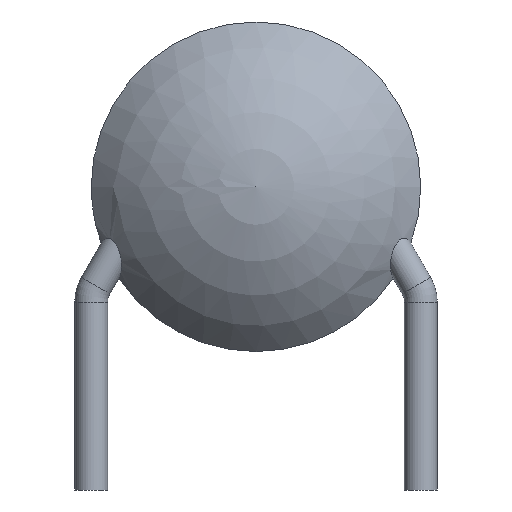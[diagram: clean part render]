
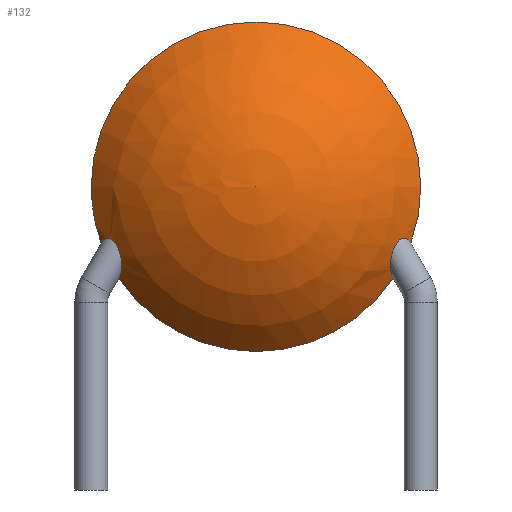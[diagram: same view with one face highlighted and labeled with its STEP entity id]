
A CAD part, front view. The second image highlights one B-rep face of the part: STEP entity #132.
In plain terms, the highlighted spherical face has radius 3.125 mm.
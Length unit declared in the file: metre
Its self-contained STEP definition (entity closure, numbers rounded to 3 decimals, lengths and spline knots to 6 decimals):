
#13=SPHERICAL_SURFACE('',#152,0.003125);
#29=B_SPLINE_CURVE_WITH_KNOTS('',3,(#209,#210,#211,#212,#213,#214,#215),
 .UNSPECIFIED.,.F.,.F.,(4,1,1,1,4),(0.,0.00025,
0.0005,0.000751,0.001001),
 .UNSPECIFIED.);
#32=B_SPLINE_CURVE_WITH_KNOTS('',3,(#238,#239,#240,#241,#242,#243,#244),
 .UNSPECIFIED.,.F.,.F.,(4,1,1,1,4),(0.,0.000249,
0.000499,0.000748,0.000997),
 .UNSPECIFIED.);
#51=ORIENTED_EDGE('',*,*,#69,.T.);
#52=ORIENTED_EDGE('',*,*,#71,.T.);
#53=ORIENTED_EDGE('',*,*,#70,.T.);
#54=ORIENTED_EDGE('',*,*,#66,.T.);
#66=EDGE_CURVE('',#78,#79,#29,.T.);
#69=EDGE_CURVE('',#79,#81,#88,.T.);
#70=EDGE_CURVE('',#80,#78,#89,.T.);
#71=EDGE_CURVE('',#81,#80,#32,.T.);
#78=VERTEX_POINT('',#216);
#79=VERTEX_POINT('',#217);
#80=VERTEX_POINT('',#233);
#81=VERTEX_POINT('',#234);
#88=CIRCLE('',#150,0.0025);
#89=CIRCLE('',#151,0.0025);
#101=EDGE_LOOP('',(#51,#52,#53,#54));
#117=FACE_BOUND('',#101,.T.);
#132=ADVANCED_FACE('',(#117),#13,.T.);
#150=AXIS2_PLACEMENT_3D('',#235,#178,#179);
#151=AXIS2_PLACEMENT_3D('',#236,#180,#181);
#152=AXIS2_PLACEMENT_3D('',#237,#182,#183);
#178=DIRECTION('',(0.,-1.,0.));
#179=DIRECTION('',(0.,0.,-1.));
#180=DIRECTION('',(0.,-1.,0.));
#181=DIRECTION('',(0.,0.,-1.));
#182=DIRECTION('',(0.,-1.,0.));
#183=DIRECTION('',(-1.,0.,0.));
#209=CARTESIAN_POINT('',(0.002082,0.002506,0.002807));
#210=CARTESIAN_POINT('',(0.002055,0.002441,0.002854));
#211=CARTESIAN_POINT('',(0.002035,0.002334,0.002985));
#212=CARTESIAN_POINT('',(0.002059,0.002234,0.003218));
#213=CARTESIAN_POINT('',(0.002213,0.002288,0.00347));
#214=CARTESIAN_POINT('',(0.002322,0.002446,0.003391));
#215=CARTESIAN_POINT('',(0.002352,0.002506,0.00334));
#216=CARTESIAN_POINT('',(0.002082,0.002506,0.002807));
#217=CARTESIAN_POINT('',(0.002352,0.002506,0.00334));
#233=CARTESIAN_POINT('',(-0.002077,0.002506,0.002807));
#234=CARTESIAN_POINT('',(-0.002347,0.002506,0.00334));
#235=CARTESIAN_POINT('',(0.000002,0.002506,0.004195));
#236=CARTESIAN_POINT('',(0.000002,0.002506,0.004195));
#237=CARTESIAN_POINT('',(0.000002,0.004381,0.004195));
#238=CARTESIAN_POINT('',(-0.002347,0.002506,0.00334));
#239=CARTESIAN_POINT('',(-0.002317,0.002446,0.003391));
#240=CARTESIAN_POINT('',(-0.002208,0.002288,0.00347));
#241=CARTESIAN_POINT('',(-0.002054,0.002234,0.003219));
#242=CARTESIAN_POINT('',(-0.00203,0.002334,0.002985));
#243=CARTESIAN_POINT('',(-0.00205,0.002441,0.002854));
#244=CARTESIAN_POINT('',(-0.002077,0.002506,0.002807));
